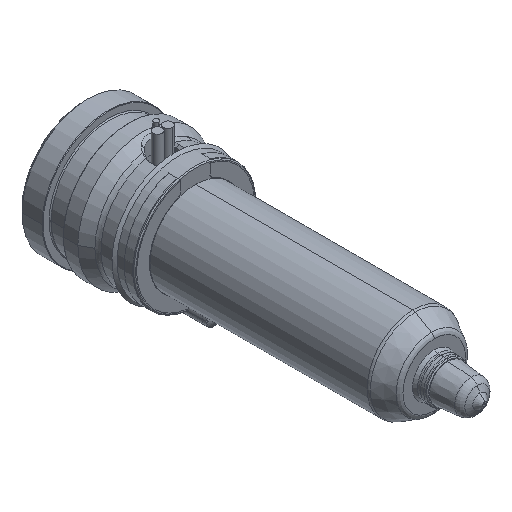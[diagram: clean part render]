
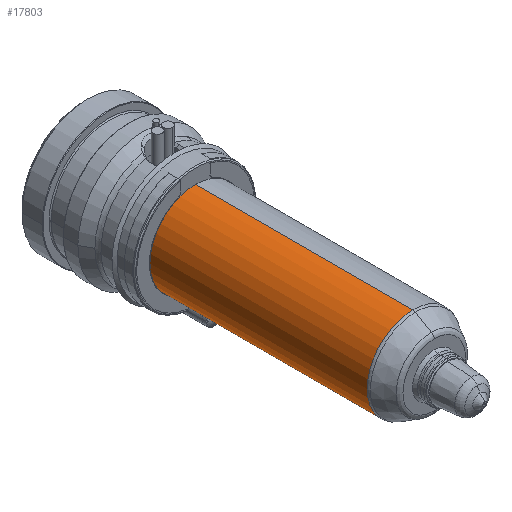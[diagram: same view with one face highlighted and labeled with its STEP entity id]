
A CAD part, isometric view. The second image highlights one B-rep face of the part: STEP entity #17803.
In plain terms, the highlighted cylindrical face has radius 9 mm (diameter 18 mm), a partial arc.
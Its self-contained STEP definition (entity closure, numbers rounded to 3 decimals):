
#17160=CARTESIAN_POINT('',(0.,-64.8,0.));
#17161=DIRECTION('',(0.,-1.,0.));
#17162=DIRECTION('',(0.,0.,1.));
#17163=AXIS2_PLACEMENT_3D('',#17160,#17161,#17162);
#17168=CARTESIAN_POINT('',(0.,-22.,0.));
#17169=DIRECTION('',(0.,1.,0.));
#17170=DIRECTION('',(0.,0.,-1.));
#17171=AXIS2_PLACEMENT_3D('',#17168,#17169,#17170);
#17176=DIRECTION('',(0.,1.,0.));
#17177=VECTOR('',#17176,42.8);
#17178=CARTESIAN_POINT('',(0.,-64.8,9.));
#17179=LINE('',#17178,#17177);
#17191=DIRECTION('',(0.,1.,0.));
#17192=VECTOR('',#17191,42.8);
#17193=CARTESIAN_POINT('',(0.,-64.8,-9.));
#17194=LINE('',#17193,#17192);
#17386=CARTESIAN_POINT('',(0.,-64.8,9.));
#17387=CARTESIAN_POINT('',(0.,-22.,9.));
#17388=VERTEX_POINT('',#17386);
#17389=VERTEX_POINT('',#17387);
#17390=CARTESIAN_POINT('',(0.,-64.8,-9.));
#17391=CARTESIAN_POINT('',(0.,-22.,-9.));
#17392=VERTEX_POINT('',#17390);
#17393=VERTEX_POINT('',#17391);
#17789=CARTESIAN_POINT('',(0.,-14.95,0.));
#17790=DIRECTION('',(0.,-1.,0.));
#17791=DIRECTION('',(0.,0.,1.));
#17792=AXIS2_PLACEMENT_3D('',#17789,#17790,#17791);
#17793=CYLINDRICAL_SURFACE('',#17792,9.);
#17795=ORIENTED_EDGE('',*,*,#17794,.F.);
#17796=ORIENTED_EDGE('',*,*,#17784,.T.);
#17798=ORIENTED_EDGE('',*,*,#17797,.T.);
#17800=ORIENTED_EDGE('',*,*,#17799,.T.);
#17801=EDGE_LOOP('',(#17795,#17796,#17798,#17800));
#17802=FACE_OUTER_BOUND('',#17801,.F.);
#17803=ADVANCED_FACE('',(#17802),#17793,.T.);
#17164=CIRCLE('',#17163,9.);
#17172=CIRCLE('',#17171,9.);
#17784=EDGE_CURVE('',#17388,#17392,#17164,.T.);
#17794=EDGE_CURVE('',#17388,#17389,#17179,.T.);
#17797=EDGE_CURVE('',#17392,#17393,#17194,.T.);
#17799=EDGE_CURVE('',#17393,#17389,#17172,.T.);
